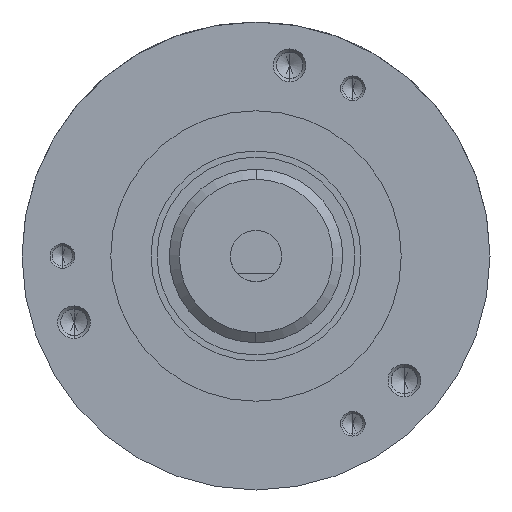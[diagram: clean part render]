
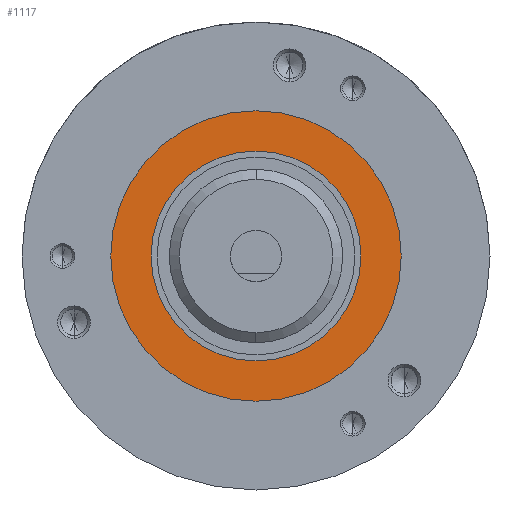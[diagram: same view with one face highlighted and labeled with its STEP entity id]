
A CAD part, left-side view. The second image highlights one B-rep face of the part: STEP entity #1117.
In plain terms, the highlighted planar face has unit normal (-1, 0, 0).
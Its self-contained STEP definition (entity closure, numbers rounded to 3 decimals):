
#354 = CARTESIAN_POINT ( 'NONE',  ( -3.622, 25.423, 0. ) ) ;
#1117 = ADVANCED_FACE ( 'NONE', ( #8873, #16382 ), #27161, .F. ) ;
#1785 = CARTESIAN_POINT ( 'NONE',  ( -3.622, 25.423, 13. ) ) ;
#2506 = EDGE_CURVE ( 'NONE', #20027, #7372, #15152, .T. ) ;
#4658 = CIRCLE ( 'NONE', #17404, 13. ) ;
#5577 = VERTEX_POINT ( 'NONE', #17876 ) ;
#5668 = AXIS2_PLACEMENT_3D ( 'NONE', #33278, #29987, #11492 ) ;
#6524 = CARTESIAN_POINT ( 'NONE',  ( -3.622, 25.423, -18. ) ) ;
#7372 = VERTEX_POINT ( 'NONE', #6524 ) ;
#8873 = FACE_BOUND ( 'NONE', #13618, .T. ) ;
#9051 = DIRECTION ( 'NONE',  ( 0., 0., 1. ) ) ;
#9610 = EDGE_CURVE ( 'NONE', #39214, #5577, #4658, .T. ) ;
#11492 = DIRECTION ( 'NONE',  ( 0., 0., 1. ) ) ;
#13618 = EDGE_LOOP ( 'NONE', ( #19239, #25378 ) ) ;
#14798 = ORIENTED_EDGE ( 'NONE', *, *, #2506, .T. ) ;
#15149 = DIRECTION ( 'NONE',  ( -1., 0., 0. ) ) ;
#15152 = CIRCLE ( 'NONE', #32367, 18. ) ;
#15189 = AXIS2_PLACEMENT_3D ( 'NONE', #31124, #44751, #23165 ) ;
#16382 = FACE_OUTER_BOUND ( 'NONE', #38013, .T. ) ;
#17404 = AXIS2_PLACEMENT_3D ( 'NONE', #43446, #21149, #18105 ) ;
#17876 = CARTESIAN_POINT ( 'NONE',  ( -3.622, 25.423, -13. ) ) ;
#18105 = DIRECTION ( 'NONE',  ( 0., 0., 1. ) ) ;
#19239 = ORIENTED_EDGE ( 'NONE', *, *, #9610, .F. ) ;
#19843 = DIRECTION ( 'NONE',  ( -1., 0., 0. ) ) ;
#20027 = VERTEX_POINT ( 'NONE', #42743 ) ;
#20333 = ORIENTED_EDGE ( 'NONE', *, *, #34560, .T. ) ;
#21149 = DIRECTION ( 'NONE',  ( -1., 0., 0. ) ) ;
#23165 = DIRECTION ( 'NONE',  ( 0., 0., -1. ) ) ;
#25378 = ORIENTED_EDGE ( 'NONE', *, *, #45602, .F. ) ;
#25490 = DIRECTION ( 'NONE',  ( 0., 0., 1. ) ) ;
#27161 = PLANE ( 'NONE',  #15189 ) ;
#27475 = AXIS2_PLACEMENT_3D ( 'NONE', #354, #15149, #25490 ) ;
#28121 = CIRCLE ( 'NONE', #5668, 13. ) ;
#29987 = DIRECTION ( 'NONE',  ( -1., 0., 0. ) ) ;
#31124 = CARTESIAN_POINT ( 'NONE',  ( -3.622, 43.423, 0. ) ) ;
#32367 = AXIS2_PLACEMENT_3D ( 'NONE', #34580, #19843, #9051 ) ;
#33278 = CARTESIAN_POINT ( 'NONE',  ( -3.622, 25.423, 0. ) ) ;
#34560 = EDGE_CURVE ( 'NONE', #7372, #20027, #43995, .T. ) ;
#34580 = CARTESIAN_POINT ( 'NONE',  ( -3.622, 25.423, 0. ) ) ;
#38013 = EDGE_LOOP ( 'NONE', ( #14798, #20333 ) ) ;
#39214 = VERTEX_POINT ( 'NONE', #1785 ) ;
#42743 = CARTESIAN_POINT ( 'NONE',  ( -3.622, 25.423, 18. ) ) ;
#43446 = CARTESIAN_POINT ( 'NONE',  ( -3.622, 25.423, 0. ) ) ;
#43995 = CIRCLE ( 'NONE', #27475, 18. ) ;
#44751 = DIRECTION ( 'NONE',  ( 1., 0., 0. ) ) ;
#45602 = EDGE_CURVE ( 'NONE', #5577, #39214, #28121, .T. ) ;
